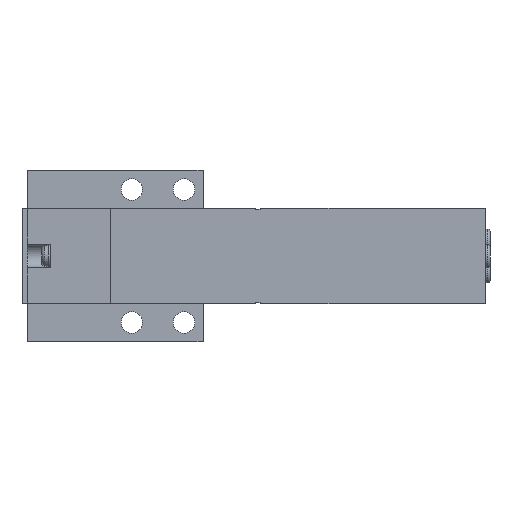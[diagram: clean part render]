
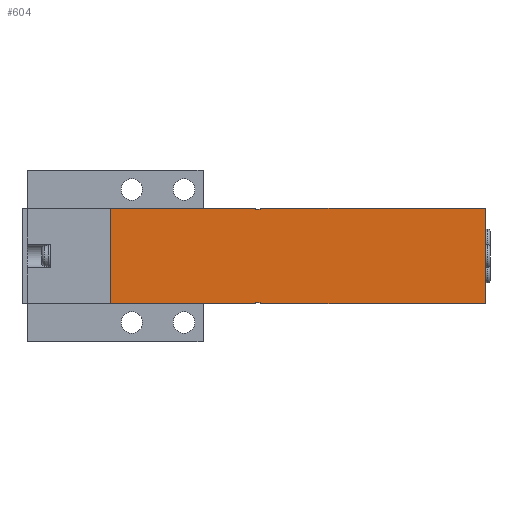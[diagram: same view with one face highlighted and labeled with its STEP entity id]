
A CAD part, front view. The second image highlights one B-rep face of the part: STEP entity #604.
In plain terms, the highlighted planar face has unit normal (0, -1, 0).
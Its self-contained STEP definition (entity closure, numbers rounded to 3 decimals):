
#604=ADVANCED_FACE('',(#1697),#1698,.F.);
#1697=FACE_OUTER_BOUND('',#3456,.T.);
#1698=PLANE('',#3457);
#3456=EDGE_LOOP('',(#6948,#6949,#6950,#6951,#6952,#6953,#6954,#6955,#6956,#6957,#6958,#6959,#6960,#6961,#6962,#6963,#6964,#6965,#6966,#6967,#6968,#6969,#6970,#6971));
#3457=AXIS2_PLACEMENT_3D('',#6972,#6973,#6974);
#6948=ORIENTED_EDGE('',*,*,#11708,.F.);
#6949=ORIENTED_EDGE('',*,*,#11624,.T.);
#6950=ORIENTED_EDGE('',*,*,#11515,.T.);
#6951=ORIENTED_EDGE('',*,*,#11731,.F.);
#6952=ORIENTED_EDGE('',*,*,#11705,.F.);
#6953=ORIENTED_EDGE('',*,*,#11732,.T.);
#6954=ORIENTED_EDGE('',*,*,#11733,.F.);
#6955=ORIENTED_EDGE('',*,*,#11734,.T.);
#6956=ORIENTED_EDGE('',*,*,#11605,.F.);
#6957=ORIENTED_EDGE('',*,*,#11490,.T.);
#6958=ORIENTED_EDGE('',*,*,#11728,.T.);
#6959=ORIENTED_EDGE('',*,*,#11735,.T.);
#6960=ORIENTED_EDGE('',*,*,#11587,.T.);
#6961=ORIENTED_EDGE('',*,*,#11736,.F.);
#6962=ORIENTED_EDGE('',*,*,#11737,.T.);
#6963=ORIENTED_EDGE('',*,*,#11738,.F.);
#6964=ORIENTED_EDGE('',*,*,#11739,.T.);
#6965=ORIENTED_EDGE('',*,*,#11622,.T.);
#6966=ORIENTED_EDGE('',*,*,#11666,.T.);
#6967=ORIENTED_EDGE('',*,*,#11740,.T.);
#6968=ORIENTED_EDGE('',*,*,#11641,.T.);
#6969=ORIENTED_EDGE('',*,*,#11741,.F.);
#6970=ORIENTED_EDGE('',*,*,#11505,.F.);
#6971=ORIENTED_EDGE('',*,*,#11656,.F.);
#6972=CARTESIAN_POINT('',(18.6,0.0,10.0));
#6973=DIRECTION('',(-0.0,1.0,0.0));
#6974=DIRECTION('',(1.0,0.0,0.0));
#11490=EDGE_CURVE('',#14004,#14002,#14005,.T.);
#11505=EDGE_CURVE('',#14031,#14034,#14035,.T.);
#11515=EDGE_CURVE('',#14048,#14052,#14054,.T.);
#11587=EDGE_CURVE('',#14189,#14187,#14190,.T.);
#11605=EDGE_CURVE('',#14004,#14222,#14223,.T.);
#11622=EDGE_CURVE('',#14251,#14249,#14252,.T.);
#11624=EDGE_CURVE('',#14244,#14048,#14254,.T.);
#11641=EDGE_CURVE('',#14275,#14283,#14285,.T.);
#11656=EDGE_CURVE('',#14309,#14031,#14311,.T.);
#11666=EDGE_CURVE('',#14249,#14326,#14327,.T.);
#11705=EDGE_CURVE('',#14388,#14390,#14391,.T.);
#11708=EDGE_CURVE('',#14244,#14309,#14395,.T.);
#11728=EDGE_CURVE('',#14002,#14421,#14423,.T.);
#11731=EDGE_CURVE('',#14390,#14052,#14426,.T.);
#11732=EDGE_CURVE('',#14388,#14427,#14428,.T.);
#11733=EDGE_CURVE('',#14429,#14427,#14430,.T.);
#11734=EDGE_CURVE('',#14429,#14222,#14431,.T.);
#11735=EDGE_CURVE('',#14421,#14189,#14432,.T.);
#11736=EDGE_CURVE('',#14433,#14187,#14434,.T.);
#11737=EDGE_CURVE('',#14433,#14435,#14436,.T.);
#11738=EDGE_CURVE('',#14437,#14435,#14438,.T.);
#11739=EDGE_CURVE('',#14437,#14251,#14439,.T.);
#11740=EDGE_CURVE('',#14326,#14275,#14440,.T.);
#11741=EDGE_CURVE('',#14034,#14283,#14441,.T.);
#14002=VERTEX_POINT('',#17886);
#14004=VERTEX_POINT('',#17889);
#14005=LINE('',#17890,#17891);
#14031=VERTEX_POINT('',#17926);
#14034=VERTEX_POINT('',#17930);
#14035=LINE('',#17931,#17932);
#14048=VERTEX_POINT('',#17951);
#14052=VERTEX_POINT('',#17957);
#14054=LINE('',#17960,#17961);
#14187=VERTEX_POINT('',#18185);
#14189=VERTEX_POINT('',#18188);
#14190=LINE('',#18189,#18190);
#14222=VERTEX_POINT('',#18238);
#14223=LINE('',#18239,#18240);
#14244=VERTEX_POINT('',#18271);
#14249=VERTEX_POINT('',#18278);
#14251=VERTEX_POINT('',#18281);
#14252=LINE('',#18282,#18283);
#14254=LINE('',#18286,#18287);
#14275=VERTEX_POINT('',#18317);
#14283=VERTEX_POINT('',#18329);
#14285=LINE('',#18332,#18333);
#14309=VERTEX_POINT('',#18365);
#14311=LINE('',#18368,#18369);
#14326=VERTEX_POINT('',#18393);
#14327=LINE('',#18394,#18395);
#14388=VERTEX_POINT('',#18529);
#14390=VERTEX_POINT('',#18532);
#14391=LINE('',#18533,#18534);
#14395=LINE('',#18540,#18541);
#14421=VERTEX_POINT('',#18585);
#14423=LINE('',#18588,#18589);
#14426=LINE('',#18594,#18595);
#14427=VERTEX_POINT('',#18596);
#14428=LINE('',#18597,#18598);
#14429=VERTEX_POINT('',#18599);
#14430=LINE('',#18600,#18601);
#14431=LINE('',#18602,#18603);
#14432=LINE('',#18604,#18605);
#14433=VERTEX_POINT('',#18606);
#14434=LINE('',#18607,#18608);
#14435=VERTEX_POINT('',#18609);
#14436=LINE('',#18610,#18611);
#14437=VERTEX_POINT('',#18612);
#14438=LINE('',#18613,#18614);
#14439=LINE('',#18615,#18616);
#14440=LINE('',#18617,#18618);
#14441=LINE('',#18619,#18620);
#17886=CARTESIAN_POINT('',(18.6,0.0,-9.9));
#17889=CARTESIAN_POINT('',(18.6,0.0,9.9));
#17890=CARTESIAN_POINT('',(18.6,0.0,10.0));
#17891=VECTOR('',#22267,1.0);
#17926=CARTESIAN_POINT('',(55.1,0.0,10.0));
#17930=CARTESIAN_POINT('',(97.6,0.0,10.0));
#17931=CARTESIAN_POINT('',(18.6,0.0,10.0));
#17932=VECTOR('',#22290,1.0);
#17951=CARTESIAN_POINT('',(50.1,0.0,9.8));
#17957=CARTESIAN_POINT('',(49.1,0.0,9.8));
#17960=CARTESIAN_POINT('',(18.6,0.0,9.8));
#17961=VECTOR('',#22300,1.0);
#18185=CARTESIAN_POINT('',(44.1,0.0,-10.0));
#18188=CARTESIAN_POINT('',(35.1,0.0,-10.0));
#18189=CARTESIAN_POINT('',(18.6,0.0,-10.0));
#18190=VECTOR('',#22381,1.0);
#18238=CARTESIAN_POINT('',(35.1,0.0,9.9));
#18239=CARTESIAN_POINT('',(18.6,0.0,9.9));
#18240=VECTOR('',#22401,1.0);
#18271=CARTESIAN_POINT('',(50.1,0.0,9.9));
#18278=CARTESIAN_POINT('',(50.1,0.0,-9.9));
#18281=CARTESIAN_POINT('',(50.1,0.0,-9.8));
#18282=CARTESIAN_POINT('',(50.1,0.0,10.0));
#18283=VECTOR('',#22424,1.0);
#18286=CARTESIAN_POINT('',(50.1,0.0,10.0));
#18287=VECTOR('',#22426,1.0);
#18317=CARTESIAN_POINT('',(55.1,0.0,-10.0));
#18329=CARTESIAN_POINT('',(97.6,0.0,-10.0));
#18332=CARTESIAN_POINT('',(18.6,0.0,-10.0));
#18333=VECTOR('',#22447,1.0);
#18365=CARTESIAN_POINT('',(55.1,0.0,9.9));
#18368=CARTESIAN_POINT('',(55.1,0.0,9.9));
#18369=VECTOR('',#22472,1.0);
#18393=CARTESIAN_POINT('',(55.1,0.0,-9.9));
#18394=CARTESIAN_POINT('',(44.1,0.0,-9.9));
#18395=VECTOR('',#22482,1.0);
#18529=CARTESIAN_POINT('',(44.1,0.0,9.9));
#18532=CARTESIAN_POINT('',(49.1,0.0,9.9));
#18533=CARTESIAN_POINT('',(44.1,0.0,9.9));
#18534=VECTOR('',#22539,1.0);
#18540=CARTESIAN_POINT('',(44.1,0.0,9.9));
#18541=VECTOR('',#22542,1.0);
#18585=CARTESIAN_POINT('',(35.1,0.0,-9.9));
#18588=CARTESIAN_POINT('',(18.6,0.0,-9.9));
#18589=VECTOR('',#22562,1.0);
#18594=CARTESIAN_POINT('',(49.1,0.0,10.0));
#18595=VECTOR('',#22565,1.0);
#18596=CARTESIAN_POINT('',(44.1,0.0,10.0));
#18597=CARTESIAN_POINT('',(44.1,0.0,9.9));
#18598=VECTOR('',#22566,1.0);
#18599=CARTESIAN_POINT('',(35.1,0.0,10.0));
#18600=CARTESIAN_POINT('',(18.6,0.0,10.0));
#18601=VECTOR('',#22567,1.0);
#18602=CARTESIAN_POINT('',(35.1,0.0,10.1));
#18603=VECTOR('',#22568,1.0);
#18604=CARTESIAN_POINT('',(35.1,0.0,-9.9));
#18605=VECTOR('',#22569,1.0);
#18606=CARTESIAN_POINT('',(44.1,0.0,-9.9));
#18607=CARTESIAN_POINT('',(44.1,0.0,-9.9));
#18608=VECTOR('',#22570,1.0);
#18609=CARTESIAN_POINT('',(49.1,0.0,-9.9));
#18610=CARTESIAN_POINT('',(44.1,0.0,-9.9));
#18611=VECTOR('',#22571,1.0);
#18612=CARTESIAN_POINT('',(49.1,0.0,-9.8));
#18613=CARTESIAN_POINT('',(49.1,0.0,10.0));
#18614=VECTOR('',#22572,1.0);
#18615=CARTESIAN_POINT('',(18.6,0.0,-9.8));
#18616=VECTOR('',#22573,1.0);
#18617=CARTESIAN_POINT('',(55.1,0.0,-9.9));
#18618=VECTOR('',#22574,1.0);
#18619=CARTESIAN_POINT('',(97.6,0.0,10.0));
#18620=VECTOR('',#22575,1.0);
#22267=DIRECTION('',(0.0,0.0,-1.0));
#22290=DIRECTION('',(1.0,0.0,0.0));
#22300=DIRECTION('',(-1.0,0.0,0.0));
#22381=DIRECTION('',(1.0,0.0,0.0));
#22401=DIRECTION('',(1.0,0.0,0.0));
#22424=DIRECTION('',(0.0,0.0,-1.0));
#22426=DIRECTION('',(0.0,0.0,-1.0));
#22447=DIRECTION('',(1.0,0.0,0.0));
#22472=DIRECTION('',(0.0,0.0,1.0));
#22482=DIRECTION('',(1.0,0.0,0.0));
#22539=DIRECTION('',(1.0,0.0,0.0));
#22542=DIRECTION('',(1.0,0.0,0.0));
#22562=DIRECTION('',(1.0,0.0,0.0));
#22565=DIRECTION('',(0.0,0.0,-1.0));
#22566=DIRECTION('',(0.0,0.0,1.0));
#22567=DIRECTION('',(1.0,0.0,0.0));
#22568=DIRECTION('',(0.0,0.0,-1.0));
#22569=DIRECTION('',(0.0,0.0,-1.0));
#22570=DIRECTION('',(0.0,0.0,-1.0));
#22571=DIRECTION('',(1.0,0.0,0.0));
#22572=DIRECTION('',(0.0,0.0,-1.0));
#22573=DIRECTION('',(1.0,0.0,0.0));
#22574=DIRECTION('',(0.0,0.0,-1.0));
#22575=DIRECTION('',(0.0,0.0,-1.0));
